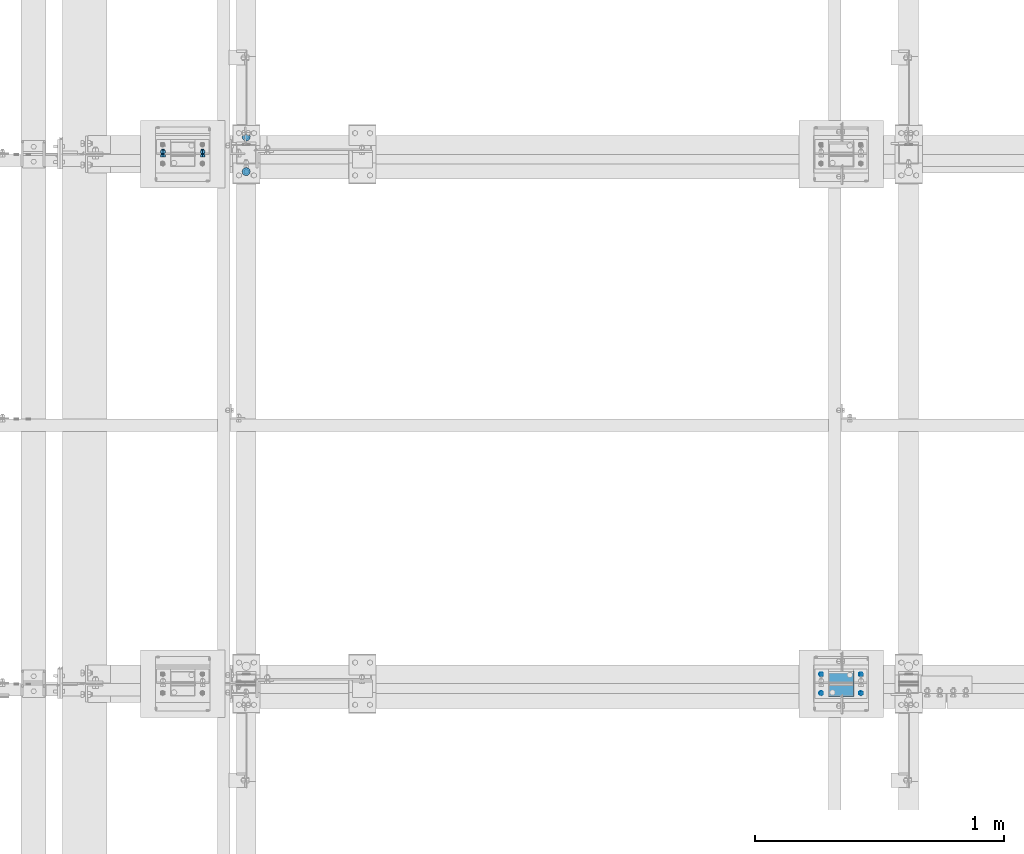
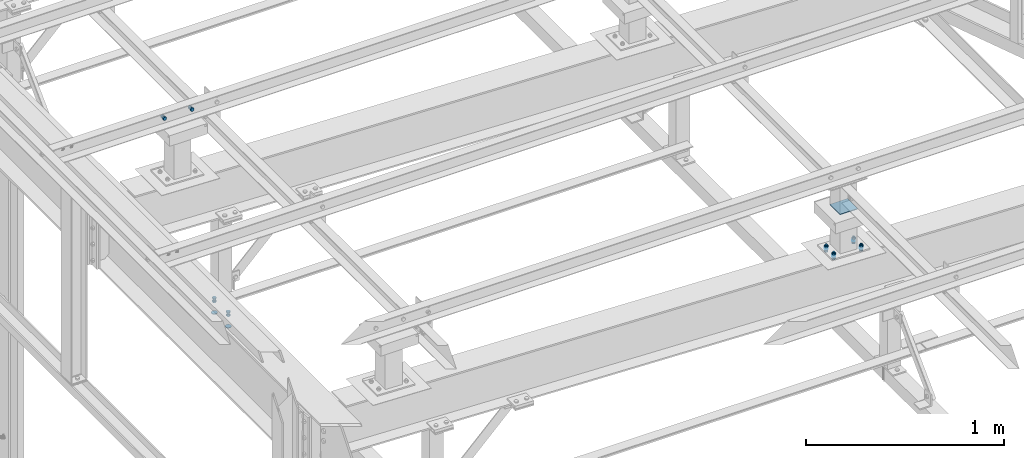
# One storey, part 39 of 3134: 6 mechanical fasteners, 4 elements without a shape of their own.
"""IFC2X3 building model written with IfcOpenShell, lengths in millimetres."""

from ifc_helpers import new_model, si_unit, frame, origin_with_axes, place, context, subcontext, project, spatial, faceted_brep, source, transform, mapped, material, type_object, element, aggregate, save


model = new_model("IFC2X3")

# Units and contexts
model_context = context("Model", 3, precision=1e-05, world=origin_with_axes())
body_context = subcontext(model_context, "Body", "Model", "MODEL_VIEW")
ifc_project = project(units=[si_unit("LENGTHUNIT", "METRE", prefix="MILLI"), si_unit("AREAUNIT", "SQUARE_METRE"), si_unit("VOLUMEUNIT", "CUBIC_METRE"), si_unit("MASSUNIT", "GRAM", prefix="KILO"), si_unit("TIMEUNIT", "SECOND"), si_unit("PLANEANGLEUNIT", "RADIAN"), si_unit("SOLIDANGLEUNIT", "STERADIAN"), si_unit("THERMODYNAMICTEMPERATUREUNIT", "DEGREE_CELSIUS"), si_unit("LUMINOUSINTENSITYUNIT", "LUMEN")], contexts=[model_context])

# Site, building, storey
site_placement = place(None, origin_with_axes())
site = spatial("IfcSite", under=ifc_project, at=site_placement, CompositionType="ELEMENT")
building_placement = place(site_placement, origin_with_axes())
building = spatial("IfcBuilding", under=site, at=building_placement, Name="Undefined", CompositionType="ELEMENT")
storey_placement = place(building_placement, origin_with_axes())
storey = spatial("IfcBuildingStorey", under=building, at=storey_placement, Name="Undefined", CompositionType="ELEMENT", Elevation=0.0)

# Assembly, mechanical fasteners
assembly_1_placement = place(storey_placement, origin_with_axes())
assembly_1 = element("IfcElementAssembly", 1, at=assembly_1_placement, inside=storey, AssemblyPlace="NOTDEFINED", PredefinedType="RIGID_FRAME")
ifc_material_1 = material(Name="8.8")
mechanical_fastener_type = type_object("IfcMechanicalFastenerType", Name="Bolt assembly")
shared_shape_1 = source(origin_with_axes(), body_context, "Body", "Brep", [
    faceted_brep([(16.5, -3.0, 0.0), (14.289419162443, -3.0, 8.25000000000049), (8.24999999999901, -3.0, 14.2894191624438), (-1.70995436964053e-12, -3.0, 16.5), (-8.25000000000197, -3.0, 14.2894191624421), (-14.2894191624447, -3.0, 8.24999999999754), (-16.5, -3.0, -3.41990873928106e-12), (-14.2894191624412, -3.0, -8.25000000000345), (-8.24999999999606, -3.0, -14.2894191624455), (5.11154442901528e-12, -3.0, -16.5), (8.25000000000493, -3.0, -14.2894191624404), (14.2894191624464, -3.0, -8.24999999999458), (14.2894191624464, 0.1, -8.24999999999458), (8.25000000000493, 0.1, -14.2894191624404), (5.11154442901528e-12, 0.1, -16.5), (-8.24999999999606, 0.1, -14.2894191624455), (-14.2894191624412, 0.1, -8.25000000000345), (-16.5, 0.1, -3.41990873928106e-12), (-14.2894191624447, 0.1, 8.24999999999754), (-8.25000000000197, 0.1, 14.2894191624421), (-1.70995436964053e-12, 0.1, 16.5), (8.24999999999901, 0.1, 14.2894191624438), (14.289419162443, 0.1, 8.25000000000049), (16.5, 0.1, 0.0)], [[[0, 1, 2, 3, 4, 5, 6, 7, 8, 9, 10, 11]], [[12, 13, 14, 15, 16, 17, 18, 19, 20, 21, 22, 23]], [[0, 23, 22, 1]], [[1, 22, 21, 2]], [[2, 21, 20, 3]], [[3, 20, 19, 4]], [[4, 19, 18, 5]], [[5, 18, 17, 6]], [[6, 17, 16, 7]], [[7, 16, 15, 8]], [[8, 15, 14, 9]], [[9, 14, 13, 10]], [[10, 13, 12, 11]], [[11, 12, 23, 0]]]),
])
mechanical_fastener_1_placement = place(assembly_1_placement, frame((650.0, 17390.0, 3040.0), z_axis=(1.0, 0.0, 0.0), x_axis=(0.0, -1.0, 0.0)))
mechanical_fastener_1 = element("IfcMechanicalFastener", 2, at=mechanical_fastener_1_placement, type_object=mechanical_fastener_type, material=ifc_material_1, Name="Bolt assembly", NominalDiameter=30.0, NominalLength=3.0, context=body_context, shape_type="MappedRepresentation", body=[
    mapped(shared_shape_1, transform((0.0, 0.0, 0.0))),
    mapped(shared_shape_1, transform((140.0, 0.0, 0.0))),
])
shared_shape_2 = source(origin_with_axes(), body_context, "Body", "Brep", [
    faceted_brep([(10.9696551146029, -16.0, 0.0), (5.48482755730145, -16.0, 9.5), (-5.48482755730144, -16.0, 9.5), (-10.9696551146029, -16.0, 1.34339530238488e-15), (-5.48482755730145, -16.0, -9.5), (5.48482755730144, -16.0, -9.50000000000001), (5.48482755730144, -8.0, -9.50000000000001), (-5.48482755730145, -8.0, -9.5), (-10.9696551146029, -8.0, 1.34339530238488e-15), (-5.48482755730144, -8.0, 9.5), (5.48482755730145, -8.0, 9.5), (10.9696551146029, -8.0, 0.0), (6.0, -8.0, 0.0), (5.19615242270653, -8.0, 3.00000000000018), (2.99999999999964, -8.0, 5.19615242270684), (-6.21801588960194e-13, -8.0, 6.0), (-3.00000000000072, -8.0, 5.19615242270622), (-5.19615242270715, -8.0, 2.9999999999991), (-6.0, -8.0, -1.24360317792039e-12), (-5.19615242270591, -8.0, -3.00000000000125), (-2.99999999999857, -8.0, -5.19615242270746), (1.85874342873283e-12, -8.0, -6.0), (3.00000000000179, -8.0, -5.1961524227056), (5.19615242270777, -8.0, -2.99999999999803), (5.19615242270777, 17.0, -2.99999999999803), (3.00000000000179, 17.0, -5.1961524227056), (1.85874342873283e-12, 17.0, -6.0), (-2.99999999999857, 17.0, -5.19615242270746), (-5.19615242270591, 17.0, -3.00000000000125), (-6.0, 17.0, -1.24360317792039e-12), (-5.19615242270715, 17.0, 2.9999999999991), (-3.00000000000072, 17.0, 5.19615242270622), (-6.21801588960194e-13, 17.0, 6.0), (2.99999999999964, 17.0, 5.19615242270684), (5.19615242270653, 17.0, 3.00000000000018), (6.0, 17.0, 0.0), (10.9696551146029, 3.00000000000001, 0.0), (5.48482755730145, 3.00000000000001, 9.5), (-5.48482755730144, 3.00000000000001, 9.5), (-10.9696551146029, 3.00000000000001, 1.34339530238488e-15), (-5.48482755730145, 3.00000000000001, -9.5), (5.48482755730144, 3.00000000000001, -9.50000000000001), (5.48482755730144, 13.0, -9.50000000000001), (-5.48482755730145, 13.0, -9.5), (-10.9696551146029, 13.0, 1.34339530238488e-15), (-5.48482755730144, 13.0, 9.5), (5.48482755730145, 13.0, 9.5), (10.9696551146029, 13.0, 0.0)], [[[0, 1, 2, 3, 4, 5]], [[6, 7, 8, 9, 10, 11]], [[0, 11, 10, 1]], [[1, 10, 9, 2]], [[2, 9, 8, 3]], [[3, 8, 7, 4]], [[4, 7, 6, 5]], [[5, 6, 11, 0]], [[12, 13, 14, 15, 16, 17, 18, 19, 20, 21, 22, 23]], [[24, 25, 26, 27, 28, 29, 30, 31, 32, 33, 34, 35]], [[12, 35, 34, 13]], [[13, 34, 33, 14]], [[14, 33, 32, 15]], [[15, 32, 31, 16]], [[16, 31, 30, 17]], [[17, 30, 29, 18]], [[18, 29, 28, 19]], [[19, 28, 27, 20]], [[20, 27, 26, 21]], [[21, 26, 25, 22]], [[22, 25, 24, 23]], [[23, 24, 35, 12]], [[36, 37, 38, 39, 40, 41]], [[42, 43, 44, 45, 46, 47]], [[36, 47, 46, 37]], [[37, 46, 45, 38]], [[38, 45, 44, 39]], [[39, 44, 43, 40]], [[40, 43, 42, 41]], [[41, 42, 47, 36]]]),
    faceted_brep([(7.0, -7.9, 0.0), (6.06217782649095, -7.9, 3.50000000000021), (3.49999999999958, -7.9, 6.06217782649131), (-7.25435187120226e-13, -7.9, 7.0), (-3.50000000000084, -7.9, 6.06217782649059), (-6.06217782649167, -7.9, 3.49999999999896), (-7.0, -7.9, -1.45087037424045e-12), (-6.06217782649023, -7.9, -3.50000000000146), (-3.49999999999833, -7.9, -6.06217782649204), (2.1685340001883e-12, -7.9, -7.0), (3.50000000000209, -7.9, -6.06217782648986), (6.0621778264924, -7.9, -3.4999999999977), (6.0621778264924, 0.0999999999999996, -3.4999999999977), (3.50000000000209, 0.0999999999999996, -6.06217782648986), (2.1685340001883e-12, 0.0999999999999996, -7.0), (-3.49999999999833, 0.0999999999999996, -6.06217782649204), (-6.06217782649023, 0.0999999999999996, -3.50000000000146), (-7.0, 0.0999999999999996, -1.45087037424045e-12), (-6.06217782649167, 0.0999999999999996, 3.49999999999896), (-3.50000000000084, 0.0999999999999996, 6.06217782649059), (-7.25435187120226e-13, 0.0999999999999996, 7.0), (3.49999999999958, 0.0999999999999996, 6.06217782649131), (6.06217782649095, 0.0999999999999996, 3.50000000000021), (7.0, 0.0999999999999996, 0.0), (7.0, -0.1, 0.0), (6.06217782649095, -0.1, 3.50000000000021), (3.49999999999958, -0.1, 6.06217782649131), (-7.25435187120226e-13, -0.1, 7.0), (-3.50000000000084, -0.1, 6.06217782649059), (-6.06217782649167, -0.1, 3.49999999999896), (-7.0, -0.1, -1.45087037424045e-12), (-6.06217782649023, -0.1, -3.50000000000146), (-3.49999999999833, -0.1, -6.06217782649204), (2.1685340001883e-12, -0.1, -7.0), (3.50000000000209, -0.1, -6.06217782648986), (6.0621778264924, -0.1, -3.4999999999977), (6.0621778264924, 3.0, -3.4999999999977), (3.50000000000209, 3.0, -6.06217782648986), (2.1685340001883e-12, 3.0, -7.0), (-3.49999999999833, 3.0, -6.06217782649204), (-6.06217782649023, 3.0, -3.50000000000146), (-7.0, 3.0, -1.45087037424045e-12), (-6.06217782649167, 3.0, 3.49999999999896), (-3.50000000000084, 3.0, 6.06217782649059), (-7.25435187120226e-13, 3.0, 7.0), (3.49999999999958, 3.0, 6.06217782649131), (6.06217782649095, 3.0, 3.50000000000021), (7.0, 3.0, 0.0)], [[[0, 1, 2, 3, 4, 5, 6, 7, 8, 9, 10, 11]], [[12, 13, 14, 15, 16, 17, 18, 19, 20, 21, 22, 23]], [[0, 23, 22, 1]], [[1, 22, 21, 2]], [[2, 21, 20, 3]], [[3, 20, 19, 4]], [[4, 19, 18, 5]], [[5, 18, 17, 6]], [[6, 17, 16, 7]], [[7, 16, 15, 8]], [[8, 15, 14, 9]], [[9, 14, 13, 10]], [[10, 13, 12, 11]], [[11, 12, 23, 0]], [[24, 25, 26, 27, 28, 29, 30, 31, 32, 33, 34, 35]], [[36, 37, 38, 39, 40, 41, 42, 43, 44, 45, 46, 47]], [[24, 47, 46, 25]], [[25, 46, 45, 26]], [[26, 45, 44, 27]], [[27, 44, 43, 28]], [[28, 43, 42, 29]], [[29, 42, 41, 30]], [[30, 41, 40, 31]], [[31, 40, 39, 32]], [[32, 39, 38, 33]], [[33, 38, 37, 34]], [[34, 37, 36, 35]], [[35, 36, 47, 24]]]),
])
mechanical_fastener_2_placement = place(assembly_1_placement, frame((650.0, 17390.0, 3120.0), z_axis=(1.0, 0.0, 0.0), x_axis=(0.0, -1.0, 0.0)))
mechanical_fastener_2 = element("IfcMechanicalFastener", 3, at=mechanical_fastener_2_placement, type_object=mechanical_fastener_type, material=ifc_material_1, Name="Bolt assembly", NominalDiameter=12.0, NominalLength=25.0, context=body_context, shape_type="MappedRepresentation", body=[
    mapped(shared_shape_2, transform((0.0, 0.0, 0.0))),
    mapped(shared_shape_2, transform((140.0, 0.0, 0.0))),
])
aggregate(assembly_1, [mechanical_fastener_2, mechanical_fastener_1])

# Assembly, mechanical fastener
assembly_2_placement = place(storey_placement, origin_with_axes())
assembly_2 = element("IfcElementAssembly", 4, at=assembly_2_placement, inside=storey, AssemblyPlace="NOTDEFINED", PredefinedType="RIGID_FRAME")
shared_shape_3 = source(origin_with_axes(), body_context, "Body", "Brep", [
    faceted_brep([(10.9696551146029, -4.1972538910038, 0.0), (5.48482755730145, -4.1972538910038, 9.5), (-5.48482755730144, -4.1972538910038, 9.5), (-10.9696551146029, -4.1972538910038, 1.34339530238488e-15), (-5.48482755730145, -4.1972538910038, -9.5), (5.48482755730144, -4.1972538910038, -9.50000000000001), (5.48482755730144, 3.8027461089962, -9.50000000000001), (-5.48482755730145, 3.8027461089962, -9.5), (-10.9696551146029, 3.8027461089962, 1.34339530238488e-15), (-5.48482755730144, 3.8027461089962, 9.5), (5.48482755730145, 3.8027461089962, 9.5), (10.9696551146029, 3.8027461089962, 0.0), (6.0, 3.8027461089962, 0.0), (5.19615242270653, 3.8027461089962, 3.00000000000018), (2.99999999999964, 3.8027461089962, 5.19615242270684), (-6.21801588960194e-13, 3.8027461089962, 6.0), (-3.00000000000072, 3.8027461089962, 5.19615242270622), (-5.19615242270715, 3.8027461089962, 2.9999999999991), (-6.0, 3.8027461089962, -1.24360317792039e-12), (-5.19615242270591, 3.8027461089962, -3.00000000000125), (-2.99999999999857, 3.8027461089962, -5.19615242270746), (1.85874342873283e-12, 3.8027461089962, -6.0), (3.00000000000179, 3.8027461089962, -5.1961524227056), (5.19615242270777, 3.8027461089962, -2.99999999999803), (5.19615242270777, 38.8027461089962, -2.99999999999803), (3.00000000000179, 38.8027461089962, -5.1961524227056), (1.85874342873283e-12, 38.8027461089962, -6.0), (-2.99999999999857, 38.8027461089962, -5.19615242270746), (-5.19615242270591, 38.8027461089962, -3.00000000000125), (-6.0, 38.8027461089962, -1.24360317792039e-12), (-5.19615242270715, 38.8027461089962, 2.9999999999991), (-3.00000000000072, 38.8027461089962, 5.19615242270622), (-6.21801588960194e-13, 38.8027461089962, 6.0), (2.99999999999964, 38.8027461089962, 5.19615242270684), (5.19615242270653, 38.8027461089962, 3.00000000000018), (6.0, 38.8027461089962, 0.0), (10.9696551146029, 23.0139082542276, 0.0), (5.48482755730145, 23.0139082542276, 9.5), (-5.48482755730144, 23.0139082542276, 9.5), (-10.9696551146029, 23.0139082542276, 1.34339530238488e-15), (-5.48482755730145, 23.0139082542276, -9.5), (5.48482755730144, 23.0139082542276, -9.50000000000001), (5.48482755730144, 33.0139082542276, -9.50000000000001), (-5.48482755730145, 33.0139082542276, -9.5), (-10.9696551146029, 33.0139082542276, 1.34339530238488e-15), (-5.48482755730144, 33.0139082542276, 9.5), (5.48482755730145, 33.0139082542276, 9.5), (10.9696551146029, 33.0139082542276, 0.0)], [[[0, 1, 2, 3, 4, 5]], [[6, 7, 8, 9, 10, 11]], [[0, 11, 10, 1]], [[1, 10, 9, 2]], [[2, 9, 8, 3]], [[3, 8, 7, 4]], [[4, 7, 6, 5]], [[5, 6, 11, 0]], [[12, 13, 14, 15, 16, 17, 18, 19, 20, 21, 22, 23]], [[24, 25, 26, 27, 28, 29, 30, 31, 32, 33, 34, 35]], [[12, 35, 34, 13]], [[13, 34, 33, 14]], [[14, 33, 32, 15]], [[15, 32, 31, 16]], [[16, 31, 30, 17]], [[17, 30, 29, 18]], [[18, 29, 28, 19]], [[19, 28, 27, 20]], [[20, 27, 26, 21]], [[21, 26, 25, 22]], [[22, 25, 24, 23]], [[23, 24, 35, 12]], [[36, 37, 38, 39, 40, 41]], [[42, 43, 44, 45, 46, 47]], [[36, 47, 46, 37]], [[37, 46, 45, 38]], [[38, 45, 44, 39]], [[39, 44, 43, 40]], [[40, 43, 42, 41]], [[41, 42, 47, 36]]]),
    faceted_brep([(7.0, 3.9027461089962, 0.0), (6.06217782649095, 3.9027461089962, 3.50000000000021), (3.49999999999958, 3.9027461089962, 6.06217782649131), (-7.25435187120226e-13, 3.9027461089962, 7.0), (-3.50000000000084, 3.9027461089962, 6.06217782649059), (-6.06217782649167, 3.9027461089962, 3.49999999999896), (-7.0, 3.9027461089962, -1.45087037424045e-12), (-6.06217782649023, 3.9027461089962, -3.50000000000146), (-3.49999999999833, 3.9027461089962, -6.06217782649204), (2.1685340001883e-12, 3.9027461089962, -7.0), (3.50000000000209, 3.9027461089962, -6.06217782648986), (6.0621778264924, 3.9027461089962, -3.4999999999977), (6.0621778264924, 13.1027459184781, -3.4999999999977), (3.50000000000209, 13.1027459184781, -6.06217782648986), (2.1685340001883e-12, 13.1027459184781, -7.0), (-3.49999999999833, 13.1027459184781, -6.06217782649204), (-6.06217782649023, 13.1027459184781, -3.50000000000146), (-7.0, 13.1027459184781, -1.45087037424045e-12), (-6.06217782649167, 13.1027459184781, 3.49999999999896), (-3.50000000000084, 13.1027459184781, 6.06217782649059), (-7.25435187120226e-13, 13.1027459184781, 7.0), (3.49999999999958, 13.1027459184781, 6.06217782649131), (6.06217782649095, 13.1027459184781, 3.50000000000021), (7.0, 13.1027459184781, 0.0), (7.0, 14.9139082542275, 0.0), (6.06217782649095, 14.9139082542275, 3.50000000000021), (3.49999999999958, 14.9139082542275, 6.06217782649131), (-7.25435187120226e-13, 14.9139082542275, 7.0), (-3.50000000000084, 14.9139082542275, 6.06217782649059), (-6.06217782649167, 14.9139082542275, 3.49999999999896), (-7.0, 14.9139082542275, -1.45087037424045e-12), (-6.06217782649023, 14.9139082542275, -3.50000000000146), (-3.49999999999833, 14.9139082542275, -6.06217782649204), (2.1685340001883e-12, 14.9139082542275, -7.0), (3.50000000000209, 14.9139082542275, -6.06217782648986), (6.0621778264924, 14.9139082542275, -3.4999999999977), (6.0621778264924, 23.0139082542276, -3.4999999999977), (3.50000000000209, 23.0139082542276, -6.06217782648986), (2.1685340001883e-12, 23.0139082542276, -7.0), (-3.49999999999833, 23.0139082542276, -6.06217782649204), (-6.06217782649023, 23.0139082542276, -3.50000000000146), (-7.0, 23.0139082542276, -1.45087037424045e-12), (-6.06217782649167, 23.0139082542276, 3.49999999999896), (-3.50000000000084, 23.0139082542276, 6.06217782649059), (-7.25435187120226e-13, 23.0139082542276, 7.0), (3.49999999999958, 23.0139082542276, 6.06217782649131), (6.06217782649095, 23.0139082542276, 3.50000000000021), (7.0, 23.0139082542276, 0.0)], [[[0, 1, 2, 3, 4, 5, 6, 7, 8, 9, 10, 11]], [[12, 13, 14, 15, 16, 17, 18, 19, 20, 21, 22, 23]], [[0, 23, 22, 1]], [[1, 22, 21, 2]], [[2, 21, 20, 3]], [[3, 20, 19, 4]], [[4, 19, 18, 5]], [[5, 18, 17, 6]], [[6, 17, 16, 7]], [[7, 16, 15, 8]], [[8, 15, 14, 9]], [[9, 14, 13, 10]], [[10, 13, 12, 11]], [[11, 12, 23, 0]], [[24, 25, 26, 27, 28, 29, 30, 31, 32, 33, 34, 35]], [[36, 37, 38, 39, 40, 41, 42, 43, 44, 45, 46, 47]], [[24, 47, 46, 25]], [[25, 46, 45, 26]], [[26, 45, 44, 27]], [[27, 44, 43, 28]], [[28, 43, 42, 29]], [[29, 42, 41, 30]], [[30, 41, 40, 31]], [[31, 40, 39, 32]], [[32, 39, 38, 33]], [[33, 38, 37, 34]], [[34, 37, 36, 35]], [[35, 36, 47, 24]]]),
])
mechanical_fastener_3_placement = place(assembly_2_placement, frame((3042.5231765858, 15227.9999999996, 3920.50000668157), z_axis=(-0.999387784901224, 0.0, 0.0349865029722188), x_axis=(0.0, -1.0, 0.0)))
mechanical_fastener_3 = element("IfcMechanicalFastener", 5, at=mechanical_fastener_3_placement, type_object=mechanical_fastener_type, material=ifc_material_1, Name="Bolt assembly", NominalDiameter=12.0, NominalLength=35.0, context=body_context, shape_type="MappedRepresentation", body=[
    mapped(shared_shape_3, transform((0.0, -5.32963895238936e-10, -79.9999999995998))),
    mapped(shared_shape_3, transform((76.0, -5.32963895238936e-10, -79.9999999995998))),
    mapped(shared_shape_3, transform((0.0, 5.3114490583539e-10, 79.9999999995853))),
    mapped(shared_shape_3, transform((76.0, 5.3114490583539e-10, 79.9999999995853))),
])

assembly_3_placement = place(storey_placement, origin_with_axes())
assembly_3 = element("IfcElementAssembly", 6, at=assembly_3_placement, inside=storey, AssemblyPlace="NOTDEFINED", PredefinedType="RIGID_FRAME")
shared_shape_4 = source(origin_with_axes(), body_context, "Body", "Brep", [
    faceted_brep([(7.0, 13.0000253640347, 0.0), (6.06217782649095, 13.0000253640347, 3.50000000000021), (3.49999999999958, 13.0000253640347, 6.06217782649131), (-7.25435187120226e-13, 13.0000253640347, 7.0), (-3.50000000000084, 13.0000253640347, 6.06217782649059), (-6.06217782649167, 13.0000253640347, 3.49999999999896), (-7.0, 13.0000253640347, -1.45087037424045e-12), (-6.06217782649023, 13.0000253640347, -3.50000000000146), (-3.49999999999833, 13.0000253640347, -6.06217782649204), (2.1685340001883e-12, 13.0000253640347, -7.0), (3.50000000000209, 13.0000253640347, -6.06217782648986), (6.0621778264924, 13.0000253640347, -3.4999999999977), (6.0621778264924, 15.0999999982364, -3.4999999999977), (3.50000000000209, 15.0999999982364, -6.06217782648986), (2.1685340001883e-12, 15.0999999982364, -7.0), (-3.49999999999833, 15.0999999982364, -6.06217782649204), (-6.06217782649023, 15.0999999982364, -3.50000000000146), (-7.0, 15.0999999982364, -1.45087037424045e-12), (-6.06217782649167, 15.0999999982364, 3.49999999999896), (-3.50000000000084, 15.0999999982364, 6.06217782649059), (-7.25435187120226e-13, 15.0999999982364, 7.0), (3.49999999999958, 15.0999999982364, 6.06217782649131), (6.06217782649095, 15.0999999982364, 3.50000000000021), (7.0, 15.0999999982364, 0.0)], [[[0, 1, 2, 3, 4, 5, 6, 7, 8, 9, 10, 11]], [[12, 13, 14, 15, 16, 17, 18, 19, 20, 21, 22, 23]], [[0, 23, 22, 1]], [[1, 22, 21, 2]], [[2, 21, 20, 3]], [[3, 20, 19, 4]], [[4, 19, 18, 5]], [[5, 18, 17, 6]], [[6, 17, 16, 7]], [[7, 16, 15, 8]], [[8, 15, 14, 9]], [[9, 14, 13, 10]], [[10, 13, 12, 11]], [[11, 12, 23, 0]]]),
])
mechanical_fastener_4_placement = place(assembly_3_placement, frame((3042.5231765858, 15227.9999999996, 3920.50000668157), z_axis=(-0.999387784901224, 0.0, 0.0349865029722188), x_axis=(0.0, -1.0, 0.0)))
mechanical_fastener_4 = element("IfcMechanicalFastener", 7, at=mechanical_fastener_4_placement, type_object=mechanical_fastener_type, material=ifc_material_1, Name="Bolt assembly", NominalDiameter=12.0, NominalLength=2.0, context=body_context, shape_type="MappedRepresentation", body=[
    mapped(shared_shape_4, transform((0.0, -5.32963895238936e-10, -79.9999999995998))),
    mapped(shared_shape_4, transform((76.0, -5.32963895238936e-10, -79.9999999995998))),
    mapped(shared_shape_4, transform((0.0, 5.3114490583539e-10, 79.9999999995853))),
    mapped(shared_shape_4, transform((76.0, 5.3114490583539e-10, 79.9999999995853))),
])
aggregate(assembly_3, [mechanical_fastener_4])

# Mechanical fastener
ifc_material_2 = material(Name="6.8")
shared_shape_5 = source(origin_with_axes(), body_context, "Body", "Brep", [
    faceted_brep([(51.5, 1.36424205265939e-12, 50.0), (51.3858192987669, 1.36424205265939e-12, 50.5740251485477), (51.0606601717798, 1.36424205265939e-12, 51.0606601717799), (50.5740251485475, 1.36424205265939e-12, 51.385819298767), (-50.0000000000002, 1.36424205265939e-12, 51.5), (-50.7500000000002, 1.36424205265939e-12, 51.2990381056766), (-51.2990381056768, 1.36424205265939e-12, 50.7499999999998), (-51.5, 1.36424205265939e-12, 49.9999999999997), (-51.5, 1.36424205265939e-12, -50.0000000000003), (-51.2990381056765, 1.36424205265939e-12, -50.7500000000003), (-50.7499999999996, 1.36424205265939e-12, -51.2990381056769), (-49.9999999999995, 1.36424205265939e-12, -51.5), (50.0000000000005, 1.36424205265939e-12, -51.5), (50.7500000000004, 1.36424205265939e-12, -51.2990381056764), (51.2990381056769, 1.36424205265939e-12, -50.7499999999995), (51.5, 1.36424205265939e-12, -49.9999999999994), (51.5, 5.10000000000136, -49.9999999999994), (51.2990381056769, 5.10000000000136, -50.7499999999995), (50.7500000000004, 5.10000000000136, -51.2990381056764), (50.0000000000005, 5.10000000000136, -51.5), (-49.9999999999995, 5.10000000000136, -51.5), (-50.7499999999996, 5.10000000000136, -51.2990381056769), (-51.2990381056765, 5.10000000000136, -50.7500000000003), (-51.5, 5.10000000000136, -50.0000000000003), (-51.5, 5.10000000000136, 49.9999999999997), (-51.2990381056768, 5.10000000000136, 50.7499999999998), (-50.7500000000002, 5.10000000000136, 51.2990381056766), (-50.0000000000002, 5.10000000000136, 51.5), (50.5740251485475, 5.10000000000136, 51.385819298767), (51.0606601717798, 5.10000000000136, 51.0606601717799), (51.3858192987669, 5.10000000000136, 50.5740251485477), (51.5, 5.10000000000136, 50.0)], [[[0, 1, 2, 3, 4, 5, 6, 7, 8, 9, 10, 11, 12, 13, 14, 15]], [[16, 17, 18, 19, 20, 21, 22, 23, 24, 25, 26, 27, 28, 29, 30, 31]], [[0, 31, 30, 1]], [[1, 30, 29, 2]], [[2, 29, 28, 3]], [[3, 28, 27, 4]], [[4, 27, 26, 5]], [[5, 26, 25, 6]], [[6, 25, 24, 7]], [[7, 24, 23, 8]], [[8, 23, 22, 9]], [[9, 22, 21, 10]], [[10, 21, 20, 11]], [[11, 20, 19, 12]], [[12, 19, 18, 13]], [[13, 18, 17, 14]], [[14, 17, 16, 15]], [[15, 16, 31, 0]]]),
])
mechanical_fastener_5_placement = place(assembly_2_placement, frame((3043.33, 15190.0, 4190.29), z_axis=(0.0, -1.0, 0.0), x_axis=(-1.0, 0.0, 0.0)))
mechanical_fastener_5 = element("IfcMechanicalFastener", 8, at=mechanical_fastener_5_placement, type_object=mechanical_fastener_type, material=ifc_material_2, Name="Bolt assembly", NominalDiameter=10.0, NominalLength=5.0, context=body_context, shape_type="MappedRepresentation", body=[
    mapped(shared_shape_5, transform((0.0, 0.0, 0.0))),
])

aggregate(assembly_2, [mechanical_fastener_3, mechanical_fastener_5])

# Assembly, mechanical fastener
assembly_4_placement = place(storey_placement, origin_with_axes())
assembly_4 = element("IfcElementAssembly", 9, at=assembly_4_placement, inside=storey, AssemblyPlace="NOTDEFINED", PredefinedType="RIGID_FRAME")
shared_shape_6 = source(origin_with_axes(), body_context, "Body", "Brep", [
    faceted_brep([(10.9696551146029, -12.0, 0.0), (5.48482755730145, -12.0, 9.5), (-5.48482755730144, -12.0, 9.5), (-10.9696551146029, -12.0, 1.34339530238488e-15), (-5.48482755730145, -12.0, -9.5), (5.48482755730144, -12.0, -9.50000000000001), (5.48482755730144, -4.0, -9.50000000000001), (-5.48482755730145, -4.0, -9.5), (-10.9696551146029, -4.0, 1.34339530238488e-15), (-5.48482755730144, -4.0, 9.5), (5.48482755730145, -4.0, 9.5), (10.9696551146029, -4.0, 0.0), (6.0, -4.0, 0.0), (5.19615242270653, -4.0, 3.00000000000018), (2.99999999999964, -4.0, 5.19615242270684), (-6.21801588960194e-13, -4.0, 6.0), (-3.00000000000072, -4.0, 5.19615242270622), (-5.19615242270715, -4.0, 2.9999999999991), (-6.0, -4.0, -1.24360317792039e-12), (-5.19615242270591, -4.0, -3.00000000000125), (-2.99999999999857, -4.0, -5.19615242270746), (1.85874342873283e-12, -4.0, -6.0), (3.00000000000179, -4.0, -5.1961524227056), (5.19615242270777, -4.0, -2.99999999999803), (5.19615242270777, 21.0, -2.99999999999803), (3.00000000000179, 21.0, -5.1961524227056), (1.85874342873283e-12, 21.0, -6.0), (-2.99999999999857, 21.0, -5.19615242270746), (-5.19615242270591, 21.0, -3.00000000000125), (-6.0, 21.0, -1.24360317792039e-12), (-5.19615242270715, 21.0, 2.9999999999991), (-3.00000000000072, 21.0, 5.19615242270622), (-6.21801588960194e-13, 21.0, 6.0), (2.99999999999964, 21.0, 5.19615242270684), (5.19615242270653, 21.0, 3.00000000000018), (6.0, 21.0, 0.0), (10.9696551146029, 6.00000000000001, 0.0), (5.48482755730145, 6.00000000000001, 9.5), (-5.48482755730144, 6.00000000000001, 9.5), (-10.9696551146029, 6.00000000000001, 1.34339530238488e-15), (-5.48482755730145, 6.00000000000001, -9.5), (5.48482755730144, 6.00000000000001, -9.50000000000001), (5.48482755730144, 16.0, -9.50000000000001), (-5.48482755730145, 16.0, -9.5), (-10.9696551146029, 16.0, 1.34339530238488e-15), (-5.48482755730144, 16.0, 9.5), (5.48482755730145, 16.0, 9.5), (10.9696551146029, 16.0, 0.0)], [[[0, 1, 2, 3, 4, 5]], [[6, 7, 8, 9, 10, 11]], [[0, 11, 10, 1]], [[1, 10, 9, 2]], [[2, 9, 8, 3]], [[3, 8, 7, 4]], [[4, 7, 6, 5]], [[5, 6, 11, 0]], [[12, 13, 14, 15, 16, 17, 18, 19, 20, 21, 22, 23]], [[24, 25, 26, 27, 28, 29, 30, 31, 32, 33, 34, 35]], [[12, 35, 34, 13]], [[13, 34, 33, 14]], [[14, 33, 32, 15]], [[15, 32, 31, 16]], [[16, 31, 30, 17]], [[17, 30, 29, 18]], [[18, 29, 28, 19]], [[19, 28, 27, 20]], [[20, 27, 26, 21]], [[21, 26, 25, 22]], [[22, 25, 24, 23]], [[23, 24, 35, 12]], [[36, 37, 38, 39, 40, 41]], [[42, 43, 44, 45, 46, 47]], [[36, 47, 46, 37]], [[37, 46, 45, 38]], [[38, 45, 44, 39]], [[39, 44, 43, 40]], [[40, 43, 42, 41]], [[41, 42, 47, 36]]]),
    faceted_brep([(7.0, -3.9, 0.0), (6.06217782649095, -3.9, 3.50000000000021), (3.49999999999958, -3.9, 6.06217782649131), (-7.25435187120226e-13, -3.9, 7.0), (-3.50000000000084, -3.9, 6.06217782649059), (-6.06217782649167, -3.9, 3.49999999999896), (-7.0, -3.9, -1.45087037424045e-12), (-6.06217782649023, -3.9, -3.50000000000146), (-3.49999999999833, -3.9, -6.06217782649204), (2.1685340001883e-12, -3.9, -7.0), (3.50000000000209, -3.9, -6.06217782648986), (6.0621778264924, -3.9, -3.4999999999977), (6.0621778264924, 0.0999999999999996, -3.4999999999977), (3.50000000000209, 0.0999999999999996, -6.06217782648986), (2.1685340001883e-12, 0.0999999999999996, -7.0), (-3.49999999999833, 0.0999999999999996, -6.06217782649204), (-6.06217782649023, 0.0999999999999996, -3.50000000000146), (-7.0, 0.0999999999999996, -1.45087037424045e-12), (-6.06217782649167, 0.0999999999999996, 3.49999999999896), (-3.50000000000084, 0.0999999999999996, 6.06217782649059), (-7.25435187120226e-13, 0.0999999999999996, 7.0), (3.49999999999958, 0.0999999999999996, 6.06217782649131), (6.06217782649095, 0.0999999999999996, 3.50000000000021), (7.0, 0.0999999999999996, 0.0), (7.0, -0.1, 0.0), (6.06217782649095, -0.1, 3.50000000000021), (3.49999999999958, -0.1, 6.06217782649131), (-7.25435187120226e-13, -0.1, 7.0), (-3.50000000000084, -0.1, 6.06217782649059), (-6.06217782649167, -0.1, 3.49999999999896), (-7.0, -0.1, -1.45087037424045e-12), (-6.06217782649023, -0.1, -3.50000000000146), (-3.49999999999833, -0.1, -6.06217782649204), (2.1685340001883e-12, -0.1, -7.0), (3.50000000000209, -0.1, -6.06217782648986), (6.0621778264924, -0.1, -3.4999999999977), (6.0621778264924, 6.00000000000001, -3.4999999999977), (3.50000000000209, 6.00000000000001, -6.06217782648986), (2.1685340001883e-12, 6.00000000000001, -7.0), (-3.49999999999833, 6.00000000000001, -6.06217782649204), (-6.06217782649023, 6.00000000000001, -3.50000000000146), (-7.0, 6.00000000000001, -1.45087037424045e-12), (-6.06217782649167, 6.00000000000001, 3.49999999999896), (-3.50000000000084, 6.00000000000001, 6.06217782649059), (-7.25435187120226e-13, 6.00000000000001, 7.0), (3.49999999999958, 6.00000000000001, 6.06217782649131), (6.06217782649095, 6.00000000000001, 3.50000000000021), (7.0, 6.00000000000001, 0.0)], [[[0, 1, 2, 3, 4, 5, 6, 7, 8, 9, 10, 11]], [[12, 13, 14, 15, 16, 17, 18, 19, 20, 21, 22, 23]], [[0, 23, 22, 1]], [[1, 22, 21, 2]], [[2, 21, 20, 3]], [[3, 20, 19, 4]], [[4, 19, 18, 5]], [[5, 18, 17, 6]], [[6, 17, 16, 7]], [[7, 16, 15, 8]], [[8, 15, 14, 9]], [[9, 14, 13, 10]], [[10, 13, 12, 11]], [[11, 12, 23, 0]], [[24, 25, 26, 27, 28, 29, 30, 31, 32, 33, 34, 35]], [[36, 37, 38, 39, 40, 41, 42, 43, 44, 45, 46, 47]], [[24, 47, 46, 25]], [[25, 46, 45, 26]], [[26, 45, 44, 27]], [[27, 44, 43, 28]], [[28, 43, 42, 29]], [[29, 42, 41, 30]], [[30, 41, 40, 31]], [[31, 40, 39, 32]], [[32, 39, 38, 33]], [[33, 38, 37, 34]], [[34, 37, 36, 35]], [[35, 36, 47, 24]]]),
])
mechanical_fastener_6_placement = place(assembly_4_placement, frame((394.999950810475, 17319.999683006, 4400.0), z_axis=(1.0, 0.0, 0.0), x_axis=(0.0, 0.0, -1.0)))
mechanical_fastener_6 = element("IfcMechanicalFastener", 10, at=mechanical_fastener_6_placement, type_object=mechanical_fastener_type, material=ifc_material_1, Name="Bolt assembly", NominalDiameter=12.0, NominalLength=25.0, context=body_context, shape_type="MappedRepresentation", body=[
    mapped(shared_shape_6, transform((0.0, -5.32963895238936e-10, -79.9999999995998))),
    mapped(shared_shape_6, transform((0.0, 5.3114490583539e-10, 79.9999999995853))),
])
aggregate(assembly_4, [mechanical_fastener_6])

save(model, "model.ifc")
